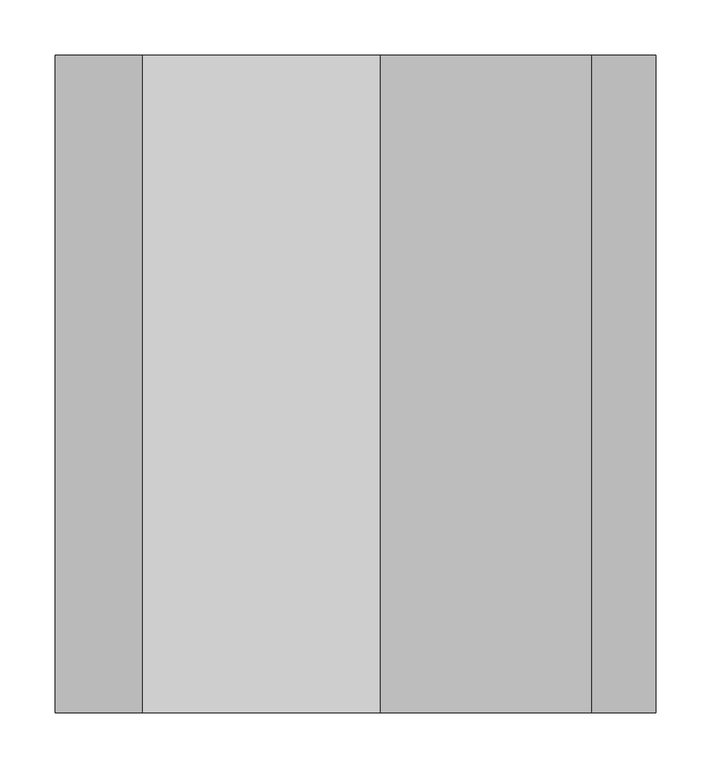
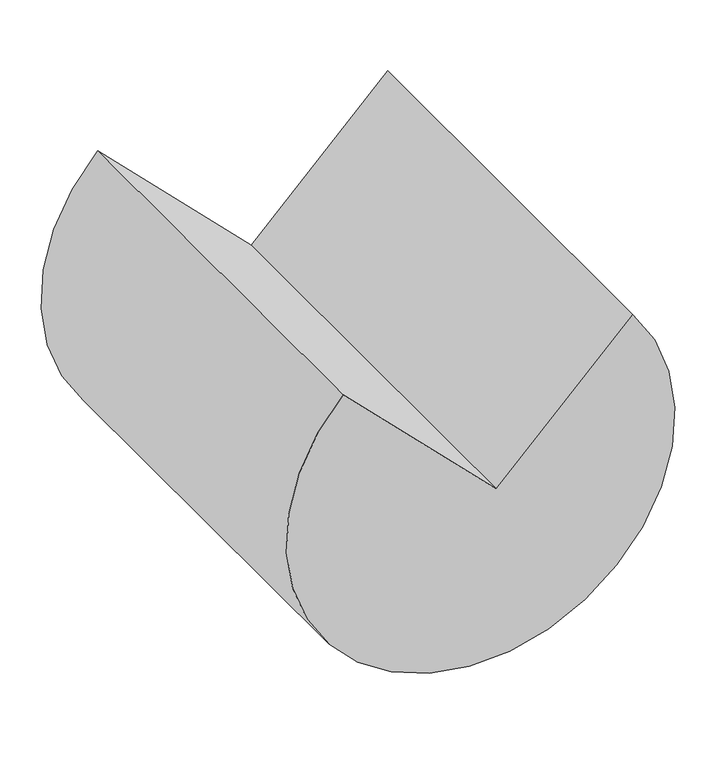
"""IFC4 building model written with IfcOpenShell, lengths in millimetres: proxy geometry, CAMBRIDGE^TABLE 1_60 ROUND-BASE SHELL."""

from ifc_helpers import new_model, si_unit, point, frame, origin, origin_2d, place, context, project, spatial, polyline, circle_curve, trimmed, segment, composite_curve, outline, extrude, source, transform, mapped, element, save


def generic_models_51752abd(model_context):
    return source(origin(), model_context, "Body", "SweptSolid", [
        extrude(outline(composite_curve([segment(polyline([(169.3151544, 214.216435), (-22.4506403, 22.4506403), (193.0755066, -193.0755066)]), True, "CONTINUOUS"), segment(trimmed(circle_curve(origin_2d(), 273.05), [point((193.0755066, -193.0755066))], [point((169.3151544, 214.216435))], False, "CARTESIAN"), True, "CONTINUOUS")], self_intersect=False)), frame((0.0, -615.95, 0.0), z_axis=(0.0, 1.0, 0.0), x_axis=(0.0, 0.0, 1.0)), (0.0, 0.0, 1.0), 596.9),
    ])


if __name__ == "__main__":
    model = new_model("IFC4")
    model_context = context("Model", 3, world=origin())
    ifc_project = project(units=[si_unit("LENGTHUNIT", "METRE", prefix="MILLI")], contexts=[model_context])
    site = spatial("IfcSite", under=ifc_project)
    building = spatial("IfcBuilding", under=site)
    placement = place(None, origin())
    generic_models_shape = generic_models_51752abd(model_context)
    element("IfcBuildingElementProxy", 1, Name="CAMBRIDGE^TABLE 1_60 ROUND-BASE SHELL", ObjectType="CAMBRIDGE^TABLE 1_60 ROUND-BASE SHELL", at=placement, inside=building, context=model_context, shape_type="MappedRepresentation", body=[
        mapped(generic_models_shape, transform((0.0, 0.0, 0.0), x_axis=(1.0, 0.0, 0.0), y_axis=(0.0, 1.0, 0.0), z_axis=(0.0, 0.0, 1.0))),
    ])
    save(model, "model.ifc")
